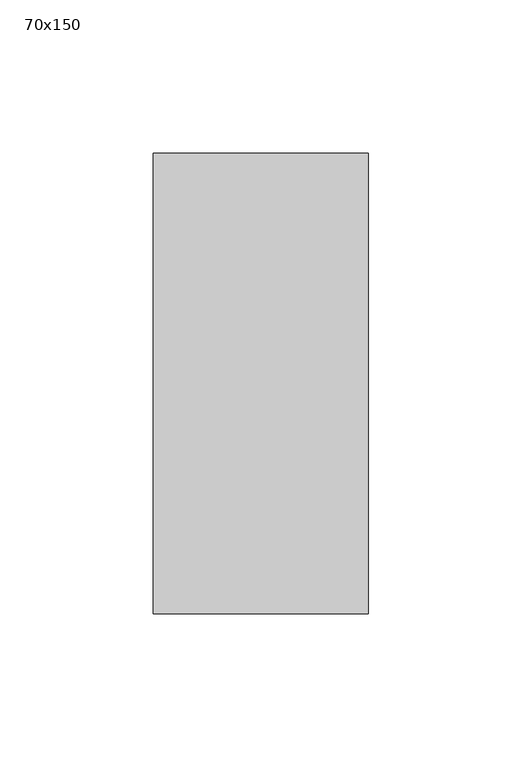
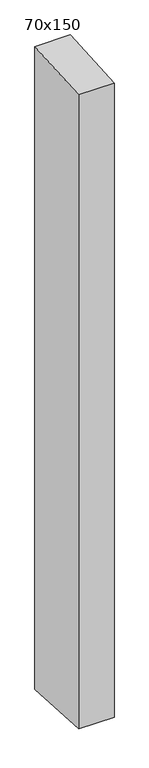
"""IFC4 building model written with IfcOpenShell, lengths in millimetres: member geometry, 長方形のマリオン : 70x150."""

from ifc_helpers import new_model, si_unit, frame, origin, place, context, project, spatial, polyline, outline, extrude, source, transform, mapped, element, save


def member_70x150_b9ec8dcc(model_context):
    return source(origin(), model_context, "Body", "SweptSolid", [
        extrude(outline(polyline([(-75.0, -5.0270374), (75.0, 5.0270374), (75.0, -1339.9081785), (-75.0, -1331.8639581), (-75.0, -5.0270374)])), frame((-70.0, 0.0, 0.0), z_axis=(1.0, 0.0, 0.0), x_axis=(0.0, 1.0, 0.0)), (0.0, 0.0, 1.0), 70.0),
    ])


if __name__ == "__main__":
    model = new_model("IFC4")
    model_context = context("Model", 3, world=origin())
    ifc_project = project(units=[si_unit("LENGTHUNIT", "METRE", prefix="MILLI")], contexts=[model_context])
    site = spatial("IfcSite", under=ifc_project)
    building = spatial("IfcBuilding", under=site)
    placement = place(None, origin())
    member_70x150_shape = member_70x150_b9ec8dcc(model_context)
    element("IfcMember", 1, ObjectType="長方形のマリオン : 70x150", at=placement, inside=building, context=model_context, shape_type="MappedRepresentation", body=[
        mapped(member_70x150_shape, transform((0.0, 0.0, 0.0), x_axis=(1.0, 0.0, 0.0), y_axis=(0.0, 1.0, 0.0), z_axis=(0.0, 0.0, 1.0))),
    ])
    save(model, "model.ifc")
